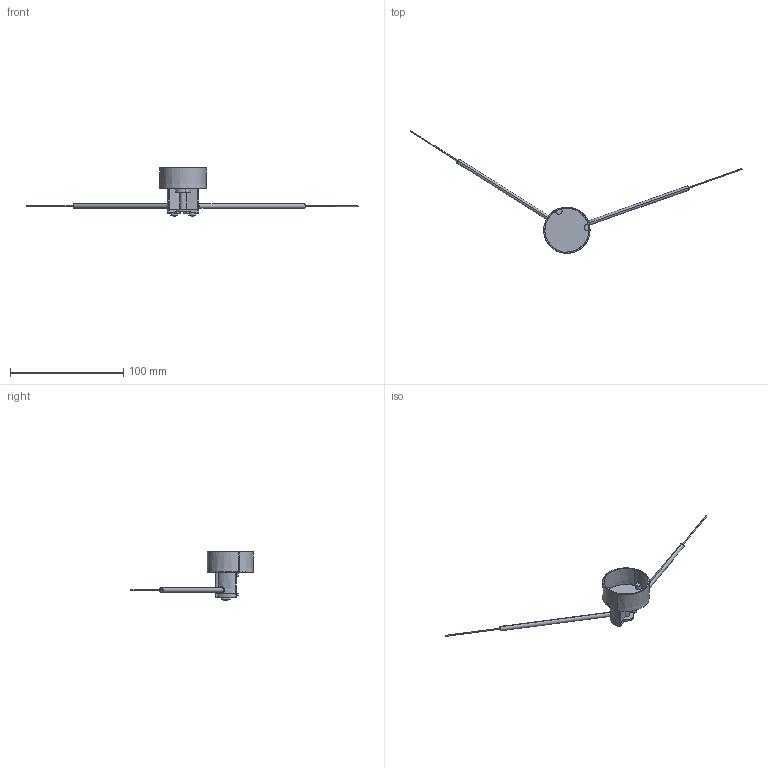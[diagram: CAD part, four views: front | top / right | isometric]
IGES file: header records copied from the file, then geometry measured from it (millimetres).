
Start section: SolidWorks IGES file using analytic representation for surfaces
Global section: file name: C:\Users\Toshiba\Desktop\FU-10PRO.IGS; native system: SolidWorks 2014; preprocessor: SolidWorks 2014; author: Toshiba; date: 160621.083841; units: metre
Bounding box: 293.74 x 108.73 x 42.61 mm (x, y, z)
Surface area: 14314.3 mm2 (no closed solid volume)
Topology: 0 solids, 0 shells, 171 faces, 2368 edges, 2366 vertices
Faces by surface type: bspline 87, revolution 84
